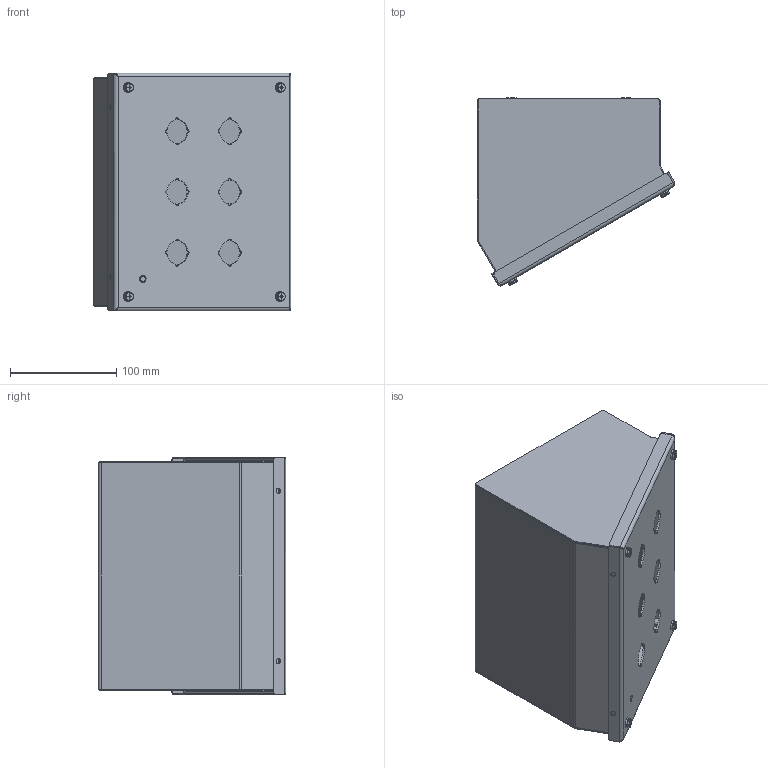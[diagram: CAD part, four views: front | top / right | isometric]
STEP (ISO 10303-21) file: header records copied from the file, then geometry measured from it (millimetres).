
FILE_DESCRIPTION((''),'2;1');
FILE_NAME('MODEL-296_ASM','2021-06-08T10:10:41',('mikek'),('SAGINAW CONTROL & ENGINEERING'),'CREO PARAMETRIC BY PTC INC, 2017260','CREO PARAMETRIC BY PTC INC, 2017260','');
FILE_SCHEMA(('AUTOMOTIVE_DESIGN { 1 0 10303 214 1 1 1 1 }'));
Length unit declared in the file: inch
Products named in the file (14): MODEL-296-BDY; MODEL-296-DR; 100063; 100983; 102534; MODEL-296-GSKT; 100009; CH-ELJ_SUBPANEL; 102479; CH-ELJ_SUBPANEL-SUBASSEMBLY_ASM; 120706; MODEL-296-R-SD; MODEL-296-L-SD; MODEL-296_ASM
Assembly tree (26 placements, depth 3):
  MODEL-296_ASM
    MODEL-296-BDY
    MODEL-296-DR
    100063
    100983  x4
    102534  x4
    MODEL-296-GSKT
    100009  x5
    CH-ELJ_SUBPANEL-SUBASSEMBLY_ASM
      CH-ELJ_SUBPANEL
      102479  x4
    120706
    MODEL-296-R-SD
    MODEL-296-L-SD
Bounding box: 186 x 176.67 x 223.84 mm (x, y, z)
Volume: 351486.5 mm3; surface area: 456796.9 mm2
Topology: 28 solids, 28 shells, 1109 faces, 2782 edges, 1608 vertices
Faces by surface type: cylinder 404, plane 389, bspline 168, torus 96, cone 44, sphere 8
Entity records: 27820 total; most frequent: CARTESIAN_POINT 4757, DIRECTION 3277, ORIENTED_EDGE 3004, EDGE_CURVE 1502, PRESENTATION_STYLE_ASSIGNMENT 1417, STYLED_ITEM 1417, CURVE_STYLE 1338, AXIS2_PLACEMENT_3D 1273
